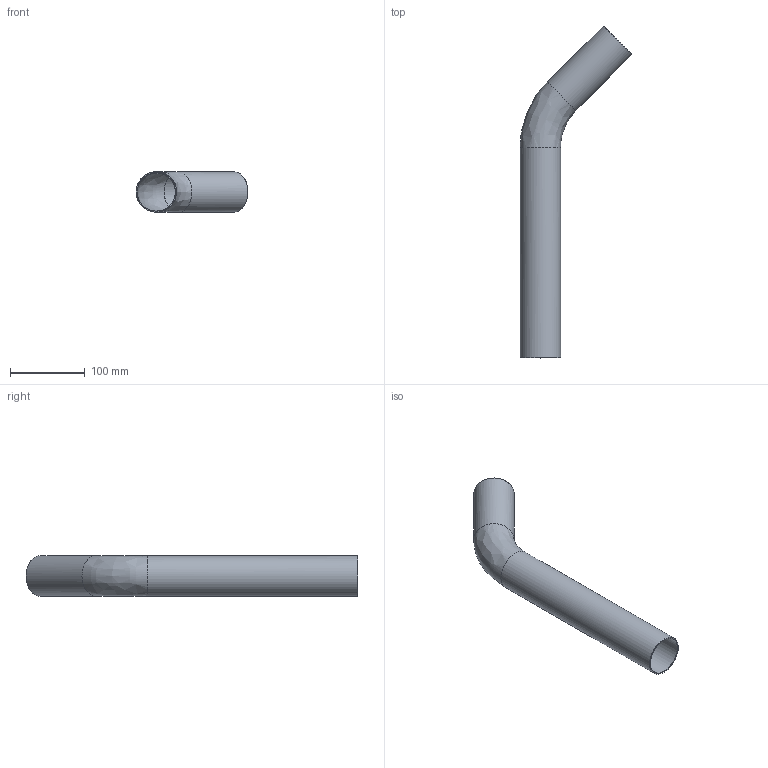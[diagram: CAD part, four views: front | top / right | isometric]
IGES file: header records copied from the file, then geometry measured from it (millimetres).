
Global section: file name: C73AJ; native system: Autodesk Inventor 2023; preprocessor: unknown; author: lvalentini; date: 20230921.120729; units: millimetre
Bounding box: 149.22 x 443.25 x 54 mm (x, y, z)
Volume: 115137.1 mm3; surface area: 153295.8 mm2
Topology: 1 solids, 1 shells, 12 faces, 26 edges, 16 vertices
Faces by surface type: bspline 12
